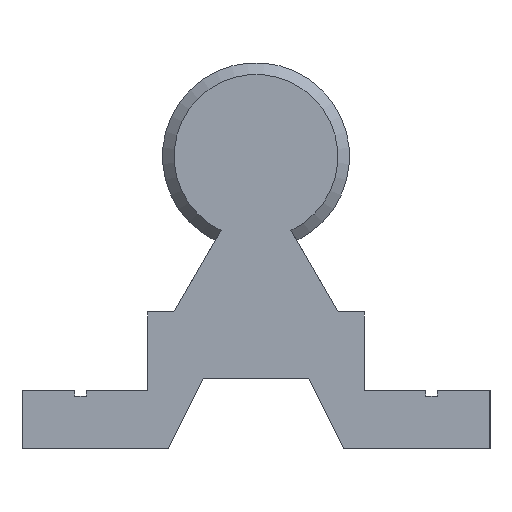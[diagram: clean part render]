
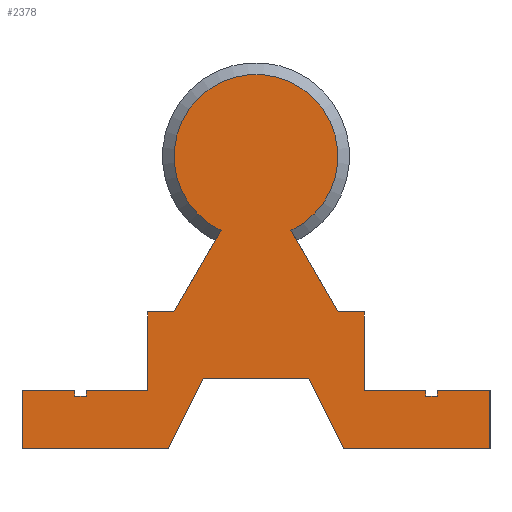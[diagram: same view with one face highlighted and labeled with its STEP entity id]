
A CAD part, left-side view. The second image highlights one B-rep face of the part: STEP entity #2378.
In plain terms, the highlighted planar face has unit normal (-1, 0, 0).
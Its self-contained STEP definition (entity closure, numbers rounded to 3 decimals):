
#52=LINE('',#3517,#252);
#53=LINE('',#3519,#253);
#54=LINE('',#3521,#254);
#55=LINE('',#3523,#255);
#56=LINE('',#3525,#256);
#57=LINE('',#3527,#257);
#58=LINE('',#3529,#258);
#59=LINE('',#3531,#259);
#60=LINE('',#3533,#260);
#61=LINE('',#3535,#261);
#62=LINE('',#3537,#262);
#63=LINE('',#3539,#263);
#64=LINE('',#3541,#264);
#65=LINE('',#3543,#265);
#66=LINE('',#3545,#266);
#67=LINE('',#3547,#267);
#68=LINE('',#3549,#268);
#69=LINE('',#3551,#269);
#70=LINE('',#3553,#270);
#71=LINE('',#3555,#271);
#72=LINE('',#3557,#272);
#73=LINE('',#3559,#273);
#74=LINE('',#3560,#274);
#252=VECTOR('',#2785,10.);
#253=VECTOR('',#2786,10.);
#254=VECTOR('',#2787,10.);
#255=VECTOR('',#2788,10.);
#256=VECTOR('',#2789,10.);
#257=VECTOR('',#2790,10.);
#258=VECTOR('',#2791,10.);
#259=VECTOR('',#2792,10.);
#260=VECTOR('',#2793,10.);
#261=VECTOR('',#2794,10.);
#262=VECTOR('',#2795,10.);
#263=VECTOR('',#2796,10.);
#264=VECTOR('',#2797,10.);
#265=VECTOR('',#2798,10.);
#266=VECTOR('',#2799,10.);
#267=VECTOR('',#2800,10.);
#268=VECTOR('',#2801,10.);
#269=VECTOR('',#2802,10.);
#270=VECTOR('',#2803,10.);
#271=VECTOR('',#2804,10.);
#272=VECTOR('',#2805,10.);
#273=VECTOR('',#2806,10.);
#274=VECTOR('',#2807,10.);
#452=PLANE('',#2516);
#532=FACE_OUTER_BOUND('',#648,.T.);
#648=EDGE_LOOP('',(#1599,#1600,#1601,#1602,#1603,#1604,#1605,#1606,#1607,
#1608,#1609,#1610,#1611,#1612,#1613,#1614,#1615,#1616,#1617,#1618,#1619,
#1620,#1621,#1622));
#781=CIRCLE('',#2514,7.);
#964=VERTEX_POINT('',#3504);
#965=VERTEX_POINT('',#3508);
#967=VERTEX_POINT('',#3516);
#968=VERTEX_POINT('',#3518);
#969=VERTEX_POINT('',#3520);
#970=VERTEX_POINT('',#3522);
#971=VERTEX_POINT('',#3524);
#972=VERTEX_POINT('',#3526);
#973=VERTEX_POINT('',#3528);
#974=VERTEX_POINT('',#3530);
#975=VERTEX_POINT('',#3532);
#976=VERTEX_POINT('',#3534);
#977=VERTEX_POINT('',#3536);
#978=VERTEX_POINT('',#3538);
#979=VERTEX_POINT('',#3540);
#980=VERTEX_POINT('',#3542);
#981=VERTEX_POINT('',#3544);
#982=VERTEX_POINT('',#3546);
#983=VERTEX_POINT('',#3548);
#984=VERTEX_POINT('',#3550);
#985=VERTEX_POINT('',#3552);
#986=VERTEX_POINT('',#3554);
#987=VERTEX_POINT('',#3556);
#988=VERTEX_POINT('',#3558);
#1214=EDGE_CURVE('',#964,#965,#781,.T.);
#1217=EDGE_CURVE('',#965,#967,#52,.T.);
#1218=EDGE_CURVE('',#968,#964,#53,.T.);
#1219=EDGE_CURVE('',#969,#968,#54,.T.);
#1220=EDGE_CURVE('',#970,#969,#55,.T.);
#1221=EDGE_CURVE('',#971,#970,#56,.T.);
#1222=EDGE_CURVE('',#972,#971,#57,.T.);
#1223=EDGE_CURVE('',#973,#972,#58,.T.);
#1224=EDGE_CURVE('',#974,#973,#59,.T.);
#1225=EDGE_CURVE('',#975,#974,#60,.T.);
#1226=EDGE_CURVE('',#976,#975,#61,.T.);
#1227=EDGE_CURVE('',#977,#976,#62,.T.);
#1228=EDGE_CURVE('',#978,#977,#63,.T.);
#1229=EDGE_CURVE('',#979,#978,#64,.T.);
#1230=EDGE_CURVE('',#980,#979,#65,.T.);
#1231=EDGE_CURVE('',#981,#980,#66,.T.);
#1232=EDGE_CURVE('',#982,#981,#67,.T.);
#1233=EDGE_CURVE('',#983,#982,#68,.T.);
#1234=EDGE_CURVE('',#984,#983,#69,.T.);
#1235=EDGE_CURVE('',#985,#984,#70,.T.);
#1236=EDGE_CURVE('',#986,#985,#71,.T.);
#1237=EDGE_CURVE('',#987,#986,#72,.T.);
#1238=EDGE_CURVE('',#988,#987,#73,.T.);
#1239=EDGE_CURVE('',#967,#988,#74,.T.);
#1599=ORIENTED_EDGE('',*,*,#1217,.F.);
#1600=ORIENTED_EDGE('',*,*,#1214,.F.);
#1601=ORIENTED_EDGE('',*,*,#1218,.F.);
#1602=ORIENTED_EDGE('',*,*,#1219,.F.);
#1603=ORIENTED_EDGE('',*,*,#1220,.F.);
#1604=ORIENTED_EDGE('',*,*,#1221,.F.);
#1605=ORIENTED_EDGE('',*,*,#1222,.F.);
#1606=ORIENTED_EDGE('',*,*,#1223,.F.);
#1607=ORIENTED_EDGE('',*,*,#1224,.F.);
#1608=ORIENTED_EDGE('',*,*,#1225,.F.);
#1609=ORIENTED_EDGE('',*,*,#1226,.F.);
#1610=ORIENTED_EDGE('',*,*,#1227,.F.);
#1611=ORIENTED_EDGE('',*,*,#1228,.F.);
#1612=ORIENTED_EDGE('',*,*,#1229,.F.);
#1613=ORIENTED_EDGE('',*,*,#1230,.F.);
#1614=ORIENTED_EDGE('',*,*,#1231,.F.);
#1615=ORIENTED_EDGE('',*,*,#1232,.F.);
#1616=ORIENTED_EDGE('',*,*,#1233,.F.);
#1617=ORIENTED_EDGE('',*,*,#1234,.F.);
#1618=ORIENTED_EDGE('',*,*,#1235,.F.);
#1619=ORIENTED_EDGE('',*,*,#1236,.F.);
#1620=ORIENTED_EDGE('',*,*,#1237,.F.);
#1621=ORIENTED_EDGE('',*,*,#1238,.F.);
#1622=ORIENTED_EDGE('',*,*,#1239,.F.);
#2378=ADVANCED_FACE('',(#532),#452,.F.);
#2514=AXIS2_PLACEMENT_3D('',#3509,#2779,#2780);
#2516=AXIS2_PLACEMENT_3D('',#3515,#2783,#2784);
#2779=DIRECTION('center_axis',(1.,0.,0.));
#2780=DIRECTION('ref_axis',(0.,1.,0.));
#2783=DIRECTION('center_axis',(1.,0.,0.));
#2784=DIRECTION('ref_axis',(0.,0.,-1.));
#2785=DIRECTION('',(0.,-0.5,-0.866));
#2786=DIRECTION('',(0.,-0.5,0.866));
#2787=DIRECTION('',(0.,-1.,0.));
#2788=DIRECTION('',(0.,0.,1.));
#2789=DIRECTION('',(0.,-1.,0.));
#2790=DIRECTION('',(0.,0.,1.));
#2791=DIRECTION('',(0.,-1.,0.));
#2792=DIRECTION('',(0.,0.,-1.));
#2793=DIRECTION('',(0.,-1.,0.));
#2794=DIRECTION('',(0.,0.,1.));
#2795=DIRECTION('',(0.,1.,0.));
#2796=DIRECTION('',(0.,0.447,-0.894));
#2797=DIRECTION('',(0.,1.,0.));
#2798=DIRECTION('',(0.,0.447,0.894));
#2799=DIRECTION('',(0.,1.,0.));
#2800=DIRECTION('',(0.,0.,-1.));
#2801=DIRECTION('',(0.,-1.,0.));
#2802=DIRECTION('',(0.,0.,1.));
#2803=DIRECTION('',(0.,-1.,0.));
#2804=DIRECTION('',(0.,0.,-1.));
#2805=DIRECTION('',(0.,-1.,0.));
#2806=DIRECTION('',(0.,0.,-1.));
#2807=DIRECTION('',(0.,-1.,0.));
#3504=CARTESIAN_POINT('',(0.,2.986,18.669));
#3508=CARTESIAN_POINT('',(0.,-2.986,18.669));
#3509=CARTESIAN_POINT('Origin',(0.,0.,25.));
#3515=CARTESIAN_POINT('Origin',(0.,0.,25.));
#3516=CARTESIAN_POINT('',(0.,-7.009,11.7));
#3517=CARTESIAN_POINT('',(0.,-1.492,21.255));
#3518=CARTESIAN_POINT('',(0.,7.009,11.7));
#3519=CARTESIAN_POINT('',(0.,3.253,18.205));
#3520=CARTESIAN_POINT('',(0.,9.25,11.7));
#3521=CARTESIAN_POINT('',(0.,9.25,11.7));
#3522=CARTESIAN_POINT('',(0.,9.25,5.));
#3523=CARTESIAN_POINT('',(0.,9.25,5.));
#3524=CARTESIAN_POINT('',(0.,14.5,5.));
#3525=CARTESIAN_POINT('',(0.,14.5,5.));
#3526=CARTESIAN_POINT('',(0.,14.5,4.5));
#3527=CARTESIAN_POINT('',(0.,14.5,4.5));
#3528=CARTESIAN_POINT('',(0.,15.5,4.5));
#3529=CARTESIAN_POINT('',(0.,15.5,4.5));
#3530=CARTESIAN_POINT('',(0.,15.5,5.));
#3531=CARTESIAN_POINT('',(0.,15.5,5.));
#3532=CARTESIAN_POINT('',(0.,20.,5.));
#3533=CARTESIAN_POINT('',(0.,20.,5.));
#3534=CARTESIAN_POINT('',(0.,20.,0.));
#3535=CARTESIAN_POINT('',(0.,20.,0.));
#3536=CARTESIAN_POINT('',(0.,7.5,0.));
#3537=CARTESIAN_POINT('',(0.,7.5,0.));
#3538=CARTESIAN_POINT('',(0.,4.5,6.));
#3539=CARTESIAN_POINT('',(0.,4.5,6.));
#3540=CARTESIAN_POINT('',(0.,-4.5,6.));
#3541=CARTESIAN_POINT('',(0.,-4.5,6.));
#3542=CARTESIAN_POINT('',(0.,-7.5,0.));
#3543=CARTESIAN_POINT('',(0.,-7.5,0.));
#3544=CARTESIAN_POINT('',(0.,-20.,0.));
#3545=CARTESIAN_POINT('',(0.,-20.,0.));
#3546=CARTESIAN_POINT('',(0.,-20.,5.));
#3547=CARTESIAN_POINT('',(0.,-20.,5.));
#3548=CARTESIAN_POINT('',(0.,-15.5,5.));
#3549=CARTESIAN_POINT('',(0.,-15.5,5.));
#3550=CARTESIAN_POINT('',(0.,-15.5,4.5));
#3551=CARTESIAN_POINT('',(0.,-15.5,4.5));
#3552=CARTESIAN_POINT('',(0.,-14.5,4.5));
#3553=CARTESIAN_POINT('',(0.,-14.5,4.5));
#3554=CARTESIAN_POINT('',(0.,-14.5,5.));
#3555=CARTESIAN_POINT('',(0.,-14.5,5.));
#3556=CARTESIAN_POINT('',(0.,-9.25,5.));
#3557=CARTESIAN_POINT('',(0.,-9.25,5.));
#3558=CARTESIAN_POINT('',(0.,-9.25,11.7));
#3559=CARTESIAN_POINT('',(0.,-9.25,11.7));
#3560=CARTESIAN_POINT('',(0.,-7.009,11.7));
